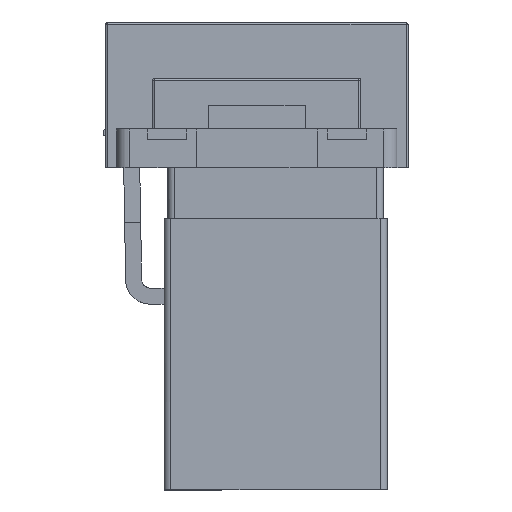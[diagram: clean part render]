
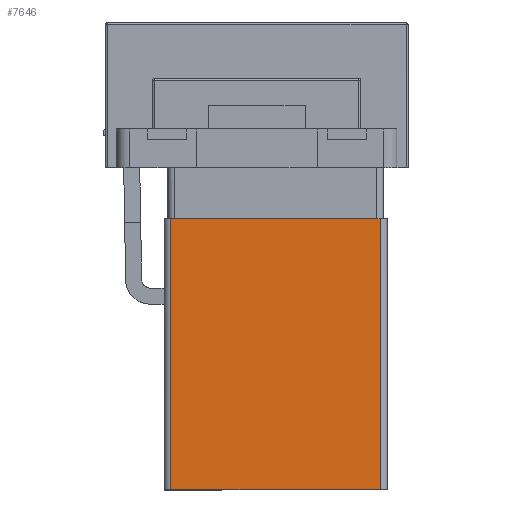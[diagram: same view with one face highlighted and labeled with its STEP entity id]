
A CAD part, left-side view. The second image highlights one B-rep face of the part: STEP entity #7646.
In plain terms, the highlighted free-form (B-spline) face has degree [1, 1] with [2, 2] control points.
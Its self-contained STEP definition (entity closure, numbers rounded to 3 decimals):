
#5381 = VERTEX_POINT('',#5382);
#5382 = CARTESIAN_POINT('',(14.725,0.,-15.915));
#5391 = EDGE_CURVE('',#5392,#5381,#5394,.T.);
#5392 = VERTEX_POINT('',#5393);
#5393 = CARTESIAN_POINT('',(14.725,0.,-0.215));
#5394 = B_SPLINE_CURVE_WITH_KNOTS('',5,(#5395,#5396,#5397,#5398,#5399,
    #5400),.UNSPECIFIED.,.F.,.F.,(6,6),(0.,15.7),
  .PIECEWISE_BEZIER_KNOTS.);
#5395 = CARTESIAN_POINT('',(14.725,0.,-0.215));
#5396 = CARTESIAN_POINT('',(14.725,0.,-3.355));
#5397 = CARTESIAN_POINT('',(14.725,0.,-6.495));
#5398 = CARTESIAN_POINT('',(14.725,0.,-9.635));
#5399 = CARTESIAN_POINT('',(14.725,0.,-12.775));
#5400 = CARTESIAN_POINT('',(14.725,0.,-15.915));
#7606 = EDGE_CURVE('',#5392,#7607,#7609,.T.);
#7607 = VERTEX_POINT('',#7608);
#7608 = CARTESIAN_POINT('',(35.,0.,-0.215));
#7609 = B_SPLINE_CURVE_WITH_KNOTS('',5,(#7610,#7611,#7612,#7613,#7614,
    #7615),.UNSPECIFIED.,.F.,.F.,(6,6),(0.,20.275),
  .PIECEWISE_BEZIER_KNOTS.);
#7610 = CARTESIAN_POINT('',(14.725,0.,-0.215));
#7611 = CARTESIAN_POINT('',(18.78,0.,-0.215));
#7612 = CARTESIAN_POINT('',(22.835,0.,-0.215));
#7613 = CARTESIAN_POINT('',(26.89,0.,-0.215));
#7614 = CARTESIAN_POINT('',(30.945,0.,-0.215));
#7615 = CARTESIAN_POINT('',(35.,0.,-0.215));
#7646 = ADVANCED_FACE('',(#7647),#7671,.T.);
#7647 = FACE_BOUND('',#7648,.T.);
#7648 = EDGE_LOOP('',(#7649,#7660,#7669,#7670));
#7649 = ORIENTED_EDGE('',*,*,#7650,.F.);
#7650 = EDGE_CURVE('',#7651,#5381,#7653,.T.);
#7651 = VERTEX_POINT('',#7652);
#7652 = CARTESIAN_POINT('',(35.,0.,-15.915));
#7653 = B_SPLINE_CURVE_WITH_KNOTS('',5,(#7654,#7655,#7656,#7657,#7658,
    #7659),.UNSPECIFIED.,.F.,.F.,(6,6),(0.,20.275),
  .PIECEWISE_BEZIER_KNOTS.);
#7654 = CARTESIAN_POINT('',(35.,0.,-15.915));
#7655 = CARTESIAN_POINT('',(30.945,0.,-15.915));
#7656 = CARTESIAN_POINT('',(26.89,0.,-15.915));
#7657 = CARTESIAN_POINT('',(22.835,0.,-15.915));
#7658 = CARTESIAN_POINT('',(18.78,0.,-15.915));
#7659 = CARTESIAN_POINT('',(14.725,0.,-15.915));
#7660 = ORIENTED_EDGE('',*,*,#7661,.T.);
#7661 = EDGE_CURVE('',#7651,#7607,#7662,.T.);
#7662 = B_SPLINE_CURVE_WITH_KNOTS('',5,(#7663,#7664,#7665,#7666,#7667,
    #7668),.UNSPECIFIED.,.F.,.F.,(6,6),(0.,15.7),
  .PIECEWISE_BEZIER_KNOTS.);
#7663 = CARTESIAN_POINT('',(35.,0.,-15.915));
#7664 = CARTESIAN_POINT('',(35.,0.,-12.775));
#7665 = CARTESIAN_POINT('',(35.,0.,-9.635));
#7666 = CARTESIAN_POINT('',(35.,0.,-6.495));
#7667 = CARTESIAN_POINT('',(35.,0.,-3.355));
#7668 = CARTESIAN_POINT('',(35.,0.,-0.215));
#7669 = ORIENTED_EDGE('',*,*,#7606,.F.);
#7670 = ORIENTED_EDGE('',*,*,#5391,.T.);
#7671 = B_SPLINE_SURFACE_WITH_KNOTS('',1,1,(
    (#7672,#7673)
    ,(#7674,#7675
    )),.UNSPECIFIED.,.F.,.F.,.F.,(2,2),(2,2),(0.,1.),(0.,1.291)
  ,.PIECEWISE_BEZIER_KNOTS.);
#7672 = CARTESIAN_POINT('',(14.725,0.,-0.215));
#7673 = CARTESIAN_POINT('',(35.,0.,-0.215));
#7674 = CARTESIAN_POINT('',(14.725,0.,-15.915));
#7675 = CARTESIAN_POINT('',(35.,0.,-15.915));
